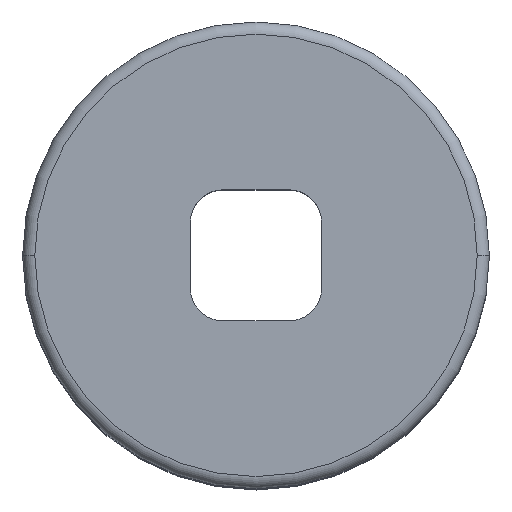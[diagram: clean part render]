
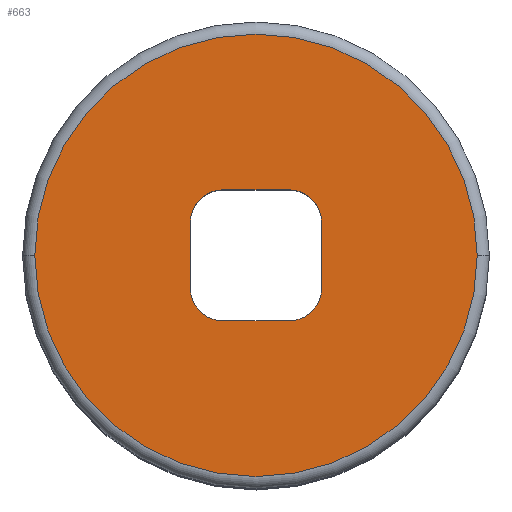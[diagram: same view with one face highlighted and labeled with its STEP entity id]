
A CAD part, top view. The second image highlights one B-rep face of the part: STEP entity #663.
In plain terms, the highlighted planar face has unit normal (0, 0, 1).
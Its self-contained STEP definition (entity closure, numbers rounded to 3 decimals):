
#161=DIRECTION('',(0.,-1.,0.));
#162=VECTOR('',#161,1.628);
#163=CARTESIAN_POINT('',(1.614,36.564,9.1));
#164=LINE('',#163,#162);
#165=DIRECTION('',(1.,0.,0.));
#166=VECTOR('',#165,1.628);
#167=CARTESIAN_POINT('',(-0.814,37.364,9.1));
#168=LINE('',#167,#166);
#169=DIRECTION('',(0.,1.,0.));
#170=VECTOR('',#169,1.628);
#171=CARTESIAN_POINT('',(-1.614,34.936,9.1));
#172=LINE('',#171,#170);
#173=DIRECTION('',(-1.,0.,0.));
#174=VECTOR('',#173,1.628);
#175=CARTESIAN_POINT('',(0.814,34.136,9.1));
#176=LINE('',#175,#174);
#177=CARTESIAN_POINT('',(0.,35.75,9.1));
#178=DIRECTION('',(0.,0.,1.));
#179=DIRECTION('',(-1.,0.,0.));
#180=AXIS2_PLACEMENT_3D('',#177,#178,#179);
#182=CARTESIAN_POINT('',(0.,35.75,9.1));
#183=DIRECTION('',(0.,0.,1.));
#184=DIRECTION('',(1.,0.,0.));
#185=AXIS2_PLACEMENT_3D('',#182,#183,#184);
#200=CARTESIAN_POINT('',(0.814,36.564,9.1));
#201=DIRECTION('',(0.,0.,-1.));
#202=DIRECTION('',(0.,1.,0.));
#203=AXIS2_PLACEMENT_3D('',#200,#201,#202);
#272=CARTESIAN_POINT('',(-0.814,36.564,9.1));
#273=DIRECTION('',(0.,0.,-1.));
#274=DIRECTION('',(-1.,0.,0.));
#275=AXIS2_PLACEMENT_3D('',#272,#273,#274);
#290=CARTESIAN_POINT('',(-0.814,34.936,9.1));
#291=DIRECTION('',(0.,0.,-1.));
#292=DIRECTION('',(0.,-1.,0.));
#293=AXIS2_PLACEMENT_3D('',#290,#291,#292);
#308=CARTESIAN_POINT('',(0.814,34.936,9.1));
#309=DIRECTION('',(0.,0.,-1.));
#310=DIRECTION('',(1.,0.,0.));
#311=AXIS2_PLACEMENT_3D('',#308,#309,#310);
#331=CARTESIAN_POINT('',(-0.814,37.364,9.1));
#333=VERTEX_POINT('',#331);
#335=CARTESIAN_POINT('',(-1.614,36.564,9.1));
#337=VERTEX_POINT('',#335);
#339=CARTESIAN_POINT('',(1.614,36.564,9.1));
#341=VERTEX_POINT('',#339);
#343=CARTESIAN_POINT('',(0.814,37.364,9.1));
#345=VERTEX_POINT('',#343);
#347=CARTESIAN_POINT('',(0.814,34.136,9.1));
#349=VERTEX_POINT('',#347);
#351=CARTESIAN_POINT('',(1.614,34.936,9.1));
#353=VERTEX_POINT('',#351);
#355=CARTESIAN_POINT('',(-1.614,34.936,9.1));
#357=VERTEX_POINT('',#355);
#359=CARTESIAN_POINT('',(-0.814,34.136,9.1));
#361=VERTEX_POINT('',#359);
#386=CARTESIAN_POINT('',(-5.45,35.75,9.1));
#387=CARTESIAN_POINT('',(5.45,35.75,9.1));
#388=VERTEX_POINT('',#386);
#389=VERTEX_POINT('',#387);
#635=CARTESIAN_POINT('',(0.,0.,9.1));
#636=DIRECTION('',(0.,0.,1.));
#637=DIRECTION('',(1.,0.,0.));
#638=AXIS2_PLACEMENT_3D('',#635,#636,#637);
#639=PLANE('',#638);
#640=ORIENTED_EDGE('',*,*,#625,.F.);
#642=ORIENTED_EDGE('',*,*,#641,.F.);
#643=EDGE_LOOP('',(#640,#642));
#644=FACE_OUTER_BOUND('',#643,.F.);
#646=ORIENTED_EDGE('',*,*,#645,.F.);
#648=ORIENTED_EDGE('',*,*,#647,.F.);
#650=ORIENTED_EDGE('',*,*,#649,.F.);
#652=ORIENTED_EDGE('',*,*,#651,.F.);
#654=ORIENTED_EDGE('',*,*,#653,.F.);
#656=ORIENTED_EDGE('',*,*,#655,.F.);
#658=ORIENTED_EDGE('',*,*,#657,.F.);
#660=ORIENTED_EDGE('',*,*,#659,.F.);
#661=EDGE_LOOP('',(#646,#648,#650,#652,#654,#656,#658,#660));
#662=FACE_BOUND('',#661,.F.);
#663=ADVANCED_FACE('',(#644,#662),#639,.T.);
#181=CIRCLE('',#180,5.45);
#186=CIRCLE('',#185,5.45);
#204=CIRCLE('',#203,0.8);
#276=CIRCLE('',#275,0.8);
#294=CIRCLE('',#293,0.8);
#312=CIRCLE('',#311,0.8);
#625=EDGE_CURVE('',#388,#389,#181,.T.);
#641=EDGE_CURVE('',#389,#388,#186,.T.);
#645=EDGE_CURVE('',#341,#353,#164,.T.);
#647=EDGE_CURVE('',#345,#341,#204,.T.);
#649=EDGE_CURVE('',#333,#345,#168,.T.);
#651=EDGE_CURVE('',#337,#333,#276,.T.);
#653=EDGE_CURVE('',#357,#337,#172,.T.);
#655=EDGE_CURVE('',#361,#357,#294,.T.);
#657=EDGE_CURVE('',#349,#361,#176,.T.);
#659=EDGE_CURVE('',#353,#349,#312,.T.);
